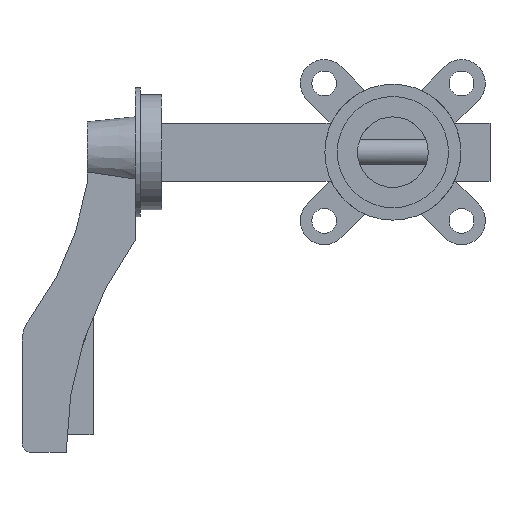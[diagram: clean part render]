
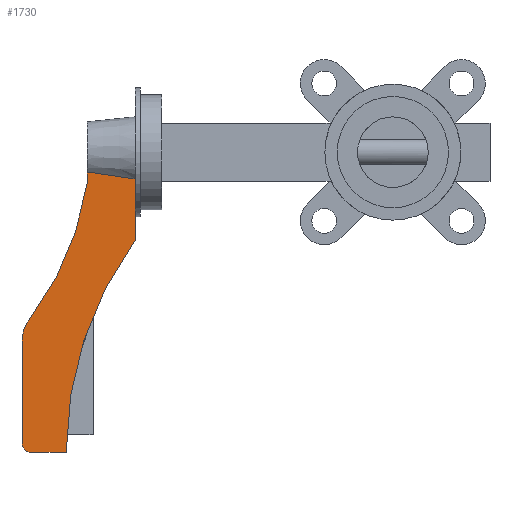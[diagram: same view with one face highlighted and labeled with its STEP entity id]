
A CAD part, left-side view. The second image highlights one B-rep face of the part: STEP entity #1730.
In plain terms, the highlighted planar face has unit normal (-1, 0, 0).
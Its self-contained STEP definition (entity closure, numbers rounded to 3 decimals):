
#57 = CIRCLE ( 'NONE', #1444, 5. ) ;
#151 = ORIENTED_EDGE ( 'NONE', *, *, #581, .F. ) ;
#160 = DIRECTION ( 'NONE',  ( -1., 0., 0. ) ) ;
#195 = EDGE_CURVE ( 'NONE', #541, #3561, #1652, .T. ) ;
#225 = AXIS2_PLACEMENT_3D ( 'NONE', #1288, #2280, #976 ) ;
#236 = DIRECTION ( 'NONE',  ( 0., 0., -1. ) ) ;
#342 = VERTEX_POINT ( 'NONE', #851 ) ;
#344 = DIRECTION ( 'NONE',  ( 0., 0., -1. ) ) ;
#352 = CIRCLE ( 'NONE', #225, 170. ) ;
#429 = DIRECTION ( 'NONE',  ( 0., 0., 1. ) ) ;
#467 = CARTESIAN_POINT ( 'NONE',  ( -13., 146., -34.106 ) ) ;
#539 = CIRCLE ( 'NONE', #2002, 20. ) ;
#541 = VERTEX_POINT ( 'NONE', #3044 ) ;
#581 = EDGE_CURVE ( 'NONE', #2279, #3800, #1123, .T. ) ;
#650 = VECTOR ( 'NONE', #1362, 1000. ) ;
#668 = AXIS2_PLACEMENT_3D ( 'NONE', #3705, #4004, #825 ) ;
#709 = VERTEX_POINT ( 'NONE', #4136 ) ;
#805 = ORIENTED_EDGE ( 'NONE', *, *, #2716, .F. ) ;
#808 = CARTESIAN_POINT ( 'NONE',  ( -13., -19.115, -170. ) ) ;
#825 = DIRECTION ( 'NONE',  ( 0., 0., 1. ) ) ;
#851 = CARTESIAN_POINT ( 'NONE',  ( -13., 205.904, -94.839 ) ) ;
#869 = ORIENTED_EDGE ( 'NONE', *, *, #2378, .F. ) ;
#877 = CARTESIAN_POINT ( 'NONE',  ( -13., 173., -11.204 ) ) ;
#915 = CARTESIAN_POINT ( 'NONE',  ( -13., 164.012, -12.612 ) ) ;
#976 = DIRECTION ( 'NONE',  ( 0., 0., -1. ) ) ;
#1110 = CARTESIAN_POINT ( 'NONE',  ( -13., 146., -15.199 ) ) ;
#1123 = LINE ( 'NONE', #1719, #650 ) ;
#1195 = ORIENTED_EDGE ( 'NONE', *, *, #1244, .F. ) ;
#1207 = CARTESIAN_POINT ( 'NONE',  ( -13., 146., -50. ) ) ;
#1209 = VERTEX_POINT ( 'NONE', #2695 ) ;
#1242 = PLANE ( 'NONE',  #1308 ) ;
#1244 = EDGE_CURVE ( 'NONE', #3800, #709, #57, .T. ) ;
#1288 = CARTESIAN_POINT ( 'NONE',  ( -13., 341.092, 8.235 ) ) ;
#1308 = AXIS2_PLACEMENT_3D ( 'NONE', #808, #160, #1411 ) ;
#1360 = DIRECTION ( 'NONE',  ( 1., 0., 0. ) ) ;
#1362 = DIRECTION ( 'NONE',  ( 0., 1., 0. ) ) ;
#1407 = LINE ( 'NONE', #2077, #1591 ) ;
#1411 = DIRECTION ( 'NONE',  ( 0., 0., 1. ) ) ;
#1444 = AXIS2_PLACEMENT_3D ( 'NONE', #1698, #1360, #3700 ) ;
#1510 = VECTOR ( 'NONE', #344, 1000. ) ;
#1591 = VECTOR ( 'NONE', #3426, 1000. ) ;
#1635 = DIRECTION ( 'NONE',  ( 1., 0., 0. ) ) ;
#1652 = LINE ( 'NONE', #3907, #3206 ) ;
#1698 = CARTESIAN_POINT ( 'NONE',  ( -13., 205., -165. ) ) ;
#1718 = CARTESIAN_POINT ( 'NONE',  ( -13., 205., -170. ) ) ;
#1719 = CARTESIAN_POINT ( 'NONE',  ( -13., 205., -170. ) ) ;
#1730 = ADVANCED_FACE ( 'NONE', ( #4072 ), #1242, .T. ) ;
#1828 = ORIENTED_EDGE ( 'NONE', *, *, #2586, .F. ) ;
#1881 = CARTESIAN_POINT ( 'NONE',  ( -13., 155.011, -13.937 ) ) ;
#1907 = CARTESIAN_POINT ( 'NONE',  ( -13., 173., -11.204 ) ) ;
#2002 = AXIS2_PLACEMENT_3D ( 'NONE', #3244, #1635, #2924 ) ;
#2077 = CARTESIAN_POINT ( 'NONE',  ( -13., 210., -106.965 ) ) ;
#2179 = CARTESIAN_POINT ( 'NONE',  ( -13., 146., -15.199 ) ) ;
#2279 = VERTEX_POINT ( 'NONE', #4042 ) ;
#2280 = DIRECTION ( 'NONE',  ( -1., 0., 0. ) ) ;
#2378 = EDGE_CURVE ( 'NONE', #3475, #2968, #2491, .T. ) ;
#2460 = CIRCLE ( 'NONE', #668, 204.115 ) ;
#2468 = B_SPLINE_CURVE_WITH_KNOTS ( 'NONE', 3,
 ( #1907, #3803, #915, #1881, #3178, #2179 ),
 .UNSPECIFIED., .F., .F.,
 ( 4, 2, 4 ),
 ( 0.012, 0.025, 0.039 ),
 .UNSPECIFIED. ) ;
#2491 = LINE ( 'NONE', #1207, #1510 ) ;
#2493 = ORIENTED_EDGE ( 'NONE', *, *, #195, .F. ) ;
#2586 = EDGE_CURVE ( 'NONE', #1209, #342, #539, .T. ) ;
#2605 = CARTESIAN_POINT ( 'NONE',  ( -13., 146., -50. ) ) ;
#2693 = EDGE_CURVE ( 'NONE', #709, #1209, #1407, .T. ) ;
#2695 = CARTESIAN_POINT ( 'NONE',  ( -13., 210., -106.965 ) ) ;
#2716 = EDGE_CURVE ( 'NONE', #2968, #2279, #2460, .T. ) ;
#2794 = VERTEX_POINT ( 'NONE', #1110 ) ;
#2924 = DIRECTION ( 'NONE',  ( 0., 0., -1. ) ) ;
#2968 = VERTEX_POINT ( 'NONE', #3440 ) ;
#3044 = CARTESIAN_POINT ( 'NONE',  ( -13., 173., -17.162 ) ) ;
#3178 = CARTESIAN_POINT ( 'NONE',  ( -13., 150.506, -14.575 ) ) ;
#3206 = VECTOR ( 'NONE', #429, 1000. ) ;
#3243 = EDGE_CURVE ( 'NONE', #3561, #2794, #2468, .T. ) ;
#3244 = CARTESIAN_POINT ( 'NONE',  ( -13., 190., -106.965 ) ) ;
#3308 = ORIENTED_EDGE ( 'NONE', *, *, #3795, .F. ) ;
#3335 = EDGE_CURVE ( 'NONE', #342, #541, #352, .T. ) ;
#3379 = EDGE_LOOP ( 'NONE', ( #3935, #2493, #3778, #1828, #4003, #1195, #151, #805, #869, #3308 ) ) ;
#3424 = VECTOR ( 'NONE', #236, 1000. ) ;
#3426 = DIRECTION ( 'NONE',  ( 0., 0., 1. ) ) ;
#3440 = CARTESIAN_POINT ( 'NONE',  ( -13., 146., -50. ) ) ;
#3475 = VERTEX_POINT ( 'NONE', #467 ) ;
#3561 = VERTEX_POINT ( 'NONE', #877 ) ;
#3573 = LINE ( 'NONE', #2605, #3424 ) ;
#3700 = DIRECTION ( 'NONE',  ( 0., 0., -1. ) ) ;
#3705 = CARTESIAN_POINT ( 'NONE',  ( -13., -19.115, -170. ) ) ;
#3778 = ORIENTED_EDGE ( 'NONE', *, *, #3335, .F. ) ;
#3795 = EDGE_CURVE ( 'NONE', #2794, #3475, #3573, .T. ) ;
#3800 = VERTEX_POINT ( 'NONE', #1718 ) ;
#3803 = CARTESIAN_POINT ( 'NONE',  ( -13., 168.509, -11.927 ) ) ;
#3907 = CARTESIAN_POINT ( 'NONE',  ( -13., 173., 0. ) ) ;
#3935 = ORIENTED_EDGE ( 'NONE', *, *, #3243, .F. ) ;
#4003 = ORIENTED_EDGE ( 'NONE', *, *, #2693, .F. ) ;
#4004 = DIRECTION ( 'NONE',  ( -1., 0., 0. ) ) ;
#4042 = CARTESIAN_POINT ( 'NONE',  ( -13., 185., -170. ) ) ;
#4072 = FACE_OUTER_BOUND ( 'NONE', #3379, .T. ) ;
#4136 = CARTESIAN_POINT ( 'NONE',  ( -13., 210., -165. ) ) ;
